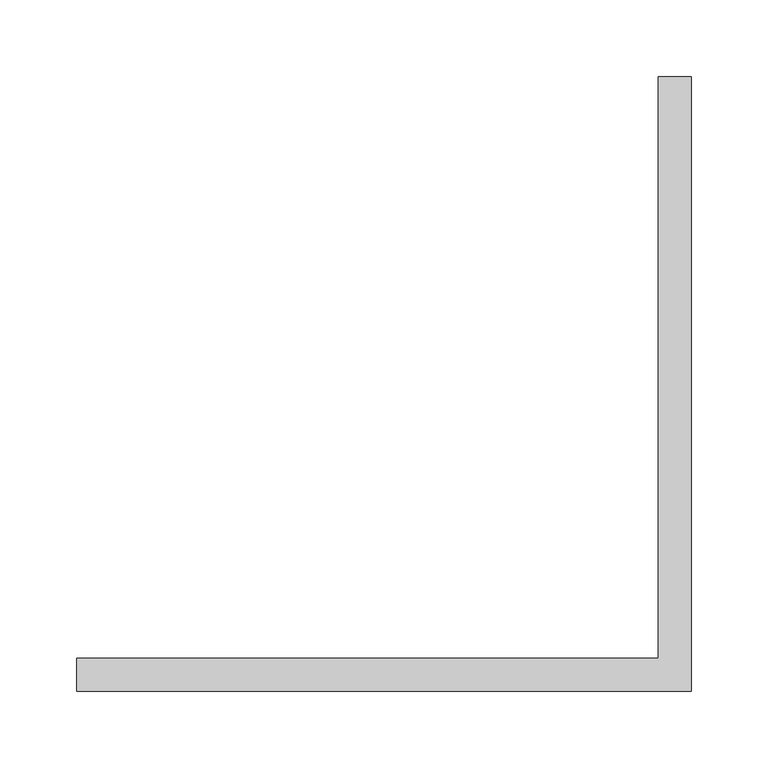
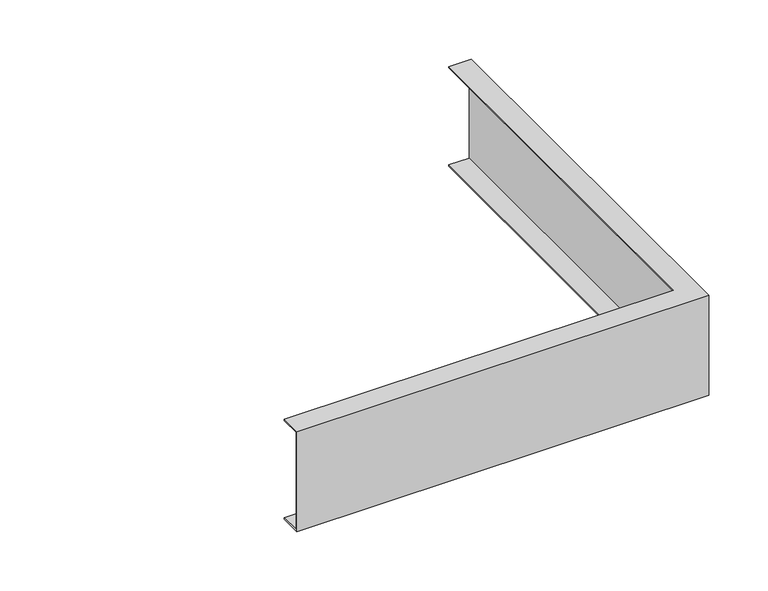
"""IFC4 building model written with IfcOpenShell, lengths in millimetres: cable carrier fitting geometry, BAKS_LDLS_CONN_Angle connector_LKSU : LKSUP_H100."""

from ifc_helpers import new_model, si_unit, origin, place, context, project, spatial, faceted_brep, source, transform, mapped, element, save


def cable_carrier_fitting_8eee429d(model_context):
    return source(origin(), model_context, "Body", "Brep", [
        faceted_brep([(-20.0, 20.0, 51.5), (-400.0, 20.0, 51.5), (-400.0, -1.5, 51.5), (1.5, -1.5, 51.5), (1.5, 400.0, 51.5), (-20.0, 400.0, 51.5), (-400.0, 20.0, 50.0), (-20.0, 20.0, 50.0), (-20.0, 400.0, 50.0), (0.0, 400.0, 50.0), (0.0, 0.0, 50.0), (-400.0, 0.0, 50.0), (-400.0, 0.0, -50.0), (-400.0, 20.0, -50.0), (-400.0, 20.0, -51.5), (-400.0, -1.5, -51.5), (1.5, 400.0, -51.5), (-20.0, 400.0, -51.5), (-20.0, 400.0, -50.0), (0.0, 400.0, -50.0), (1.5, -1.5, -51.5), (-20.0, 20.0, -51.5), (0.0, 0.0, -50.0), (-20.0, 20.0, -50.0)], [[[0, 1, 2, 3, 4, 5]], [[6, 7, 8, 9, 10, 11]], [[6, 11, 12, 13, 14, 15, 2, 1]], [[1, 0, 7, 6]], [[4, 16, 17, 18, 19, 9, 8, 5]], [[16, 4, 3, 20]], [[17, 16, 20, 15, 14, 21]], [[22, 10, 9, 19]], [[20, 3, 2, 15]], [[11, 10, 22, 12]], [[23, 13, 12, 22, 19, 18]], [[13, 23, 21, 14]], [[0, 5, 8, 7]], [[23, 18, 17, 21]]]),
    ])


if __name__ == "__main__":
    model = new_model("IFC4")
    model_context = context("Model", 3, world=origin())
    ifc_project = project(units=[si_unit("LENGTHUNIT", "METRE", prefix="MILLI")], contexts=[model_context])
    site = spatial("IfcSite", under=ifc_project)
    building = spatial("IfcBuilding", under=site)
    placement = place(None, origin())
    cable_carrier_fitting_shape = cable_carrier_fitting_8eee429d(model_context)
    element("IfcCableCarrierFitting", 1, ObjectType="BAKS_LDLS_CONN_Angle connector_LKSU : LKSUP_H100", at=placement, inside=building, context=model_context, shape_type="MappedRepresentation", body=[
        mapped(cable_carrier_fitting_shape, transform((0.0, 0.0, 0.0), x_axis=(1.0, 0.0, 0.0), y_axis=(0.0, 1.0, 0.0), z_axis=(0.0, 0.0, 1.0))),
    ])
    save(model, "model.ifc")
